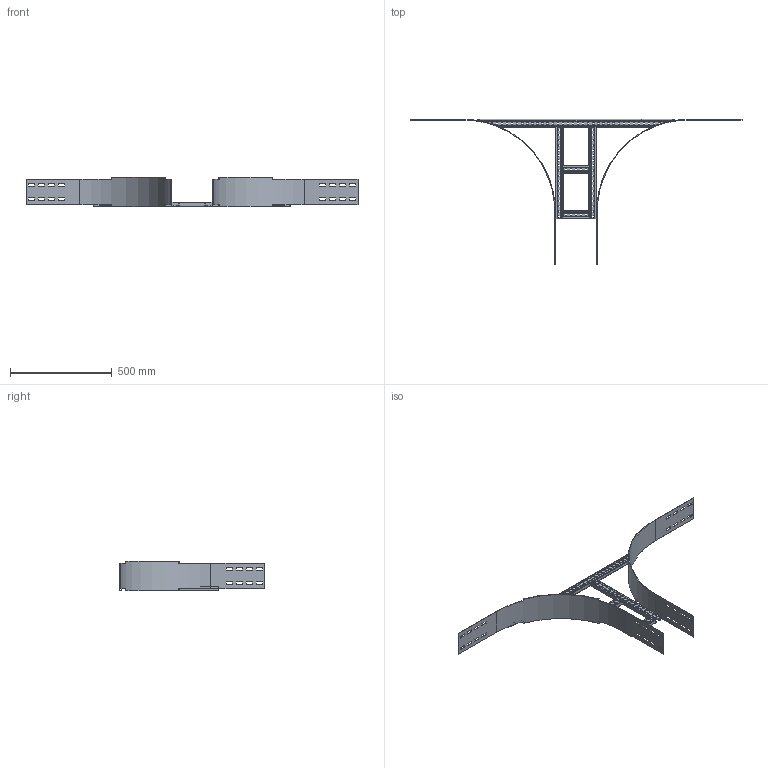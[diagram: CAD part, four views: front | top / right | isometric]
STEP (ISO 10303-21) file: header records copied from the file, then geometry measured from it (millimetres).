
FILE_DESCRIPTION(('Creo Elements/Direct Modeling STEP Export'),'2;1');
FILE_NAME('WPBP15-20-45.stp','2016-06-03T11:44:22',(''),(''),'PTC Creo Elements/Direct Modeling STEP processor for AP214 (Solid Model)','PTC Creo Elements/Direct Modeling 19.0C 15-Aug-2015 (C) Parametric Technology GmbH','');
FILE_SCHEMA(('AUTOMOTIVE_DESIGN { 1 0 10303 214 1 1 1 1 }'));
Length unit declared in the file: millimetre
Products named in the file (5): WPAASP1_20; WPAASP2; WPAAIG_150-450.1; WPKS20; WPBP15-20-45
Assembly tree (7 placements, depth 2):
  WPBP15-20-45
    WPKS20  x2
    WPAAIG_150-450.1  x2
    WPAASP2  x2
    WPAASP1_20
Bounding box: 1635 x 715 x 145 mm (x, y, z)
Volume: 1235894.1 mm3; surface area: 1056235.1 mm2
Topology: 7 solids, 7 shells, 701 faces, 2061 edges, 1374 vertices
Faces by surface type: plane 441, cylinder 260
Entity records: 15242 total; most frequent: ORIENTED_EDGE 2634, CARTESIAN_POINT 2620, DIRECTION 2545, EDGE_CURVE 1317, VECTOR 939, LINE 939, VERTEX_POINT 878, AXIS2_PLACEMENT_3D 803
